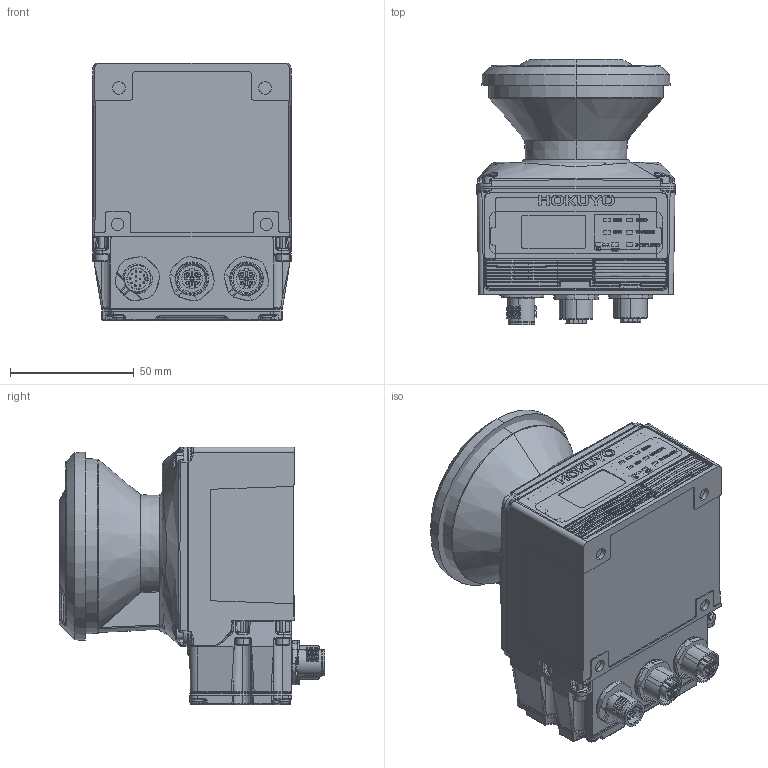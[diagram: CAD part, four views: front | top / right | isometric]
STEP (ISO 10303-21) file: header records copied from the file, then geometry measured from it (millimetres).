
FILE_DESCRIPTION (( 'STEP AP214' ), '1' );
FILE_NAME ('UAM-05LECA(喝咐壓柺).STEP', '2025-07-24T05:39:46', ( '' ), ( '' ), 'SwSTEP 2.0', 'SolidWorks 2022', '' );
FILE_SCHEMA (( 'AUTOMOTIVE_DESIGN' ));
Length unit declared in the file: millimetre
Products named in the file (13): SWP-03104.STEP.STEP; UAM-05LECA(ｺﾈｸﾀ下面); SWP-03105.STEP.STEP; ________sozai.STEP.STEP; ________.STEP.STEP; ____________f__0820_______.STEP.STEP; ___w__.STEP; SWP-01909.STEP.STEP; SWP-09400; USB____.STEP; ________SLDPRT.STEP; ___.STEP; SWP-01911.STEP.STEP
Assembly tree (19 placements, depth 3):
  UAM-05LECA(ｺﾈｸﾀ下面)
    ________.STEP.STEP
      SWP-03104.STEP.STEP  x4
      SWP-03105.STEP.STEP  x4
      SWP-01911.STEP.STEP  x2
      SWP-01909.STEP.STEP
      ____________f__0820_______.STEP.STEP
      ________sozai.STEP.STEP
    ___.STEP
    ___w__.STEP
    ________SLDPRT.STEP
    USB____.STEP
    SWP-09400
Bounding box: 80 x 107.02 x 104 mm (x, y, z)
Volume: 537457.8 mm3; surface area: 107106.8 mm2
Topology: 61 solids, 70 shells, 3628 faces, 9093 edges, 5658 vertices
Faces by surface type: plane 1481, cylinder 989, bspline 743, cone 173, torus 123, sphere 119
Entity records: 136646 total; most frequent: CARTESIAN_POINT 60494, ORIENTED_EDGE 15596, DIRECTION 12979, EDGE_CURVE 7798, VERTEX_POINT 4859, AXIS2_PLACEMENT_3D 4500, VECTOR 3979, LINE 3979
